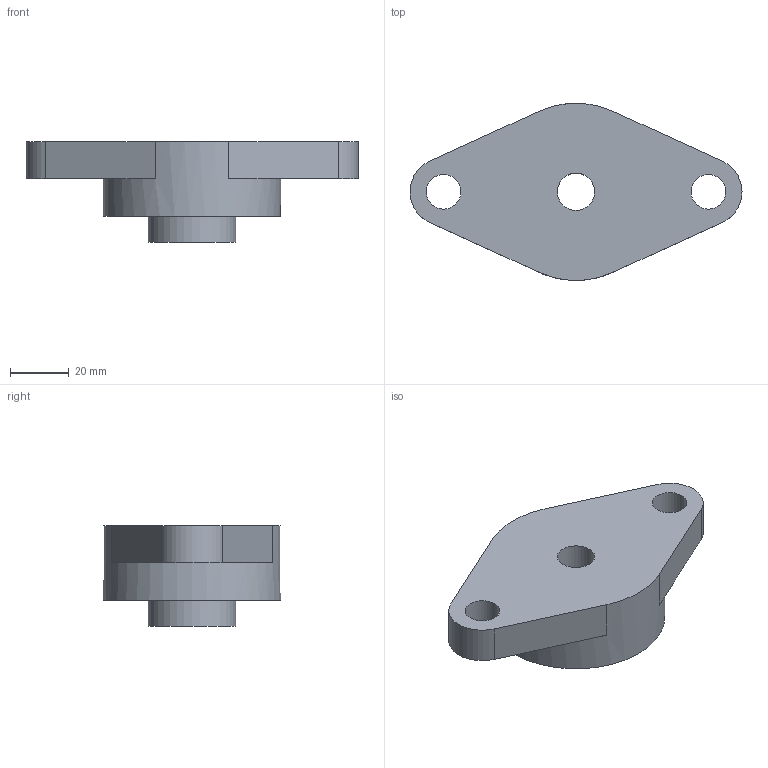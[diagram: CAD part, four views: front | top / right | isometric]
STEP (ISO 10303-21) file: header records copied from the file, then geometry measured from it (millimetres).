
FILE_DESCRIPTION(/* description */ (''),/* implementation_level */ '2;1');
FILE_NAME(/* name */ 'F:\Google Drive\Research\3d Printer Research\Feedstock Grinder\Ginder Parts\pillow block mockup.step',/* time_stamp */ '2016-08-18T22:22:53-07:00',/* author */ ('Brenton'),/* organization */ (''),/* preprocessor_version */ 'ST-DEVELOPER v15.6',/* originating_system */ 'Autodesk Inventor 2015',/* authorisation */ '');
FILE_SCHEMA (('AUTOMOTIVE_DESIGN { 1 0 10303 214 3 1 1 }'));
Length unit declared in the file: inch
Products named in the file (1): pillow block mockup
Bounding box: 112.95 x 60.24 x 34.29 mm (x, y, z)
Volume: 92369.2 mm3; surface area: 17233.6 mm2
Topology: 1 solids, 1 shells, 16 faces, 40 edges, 27 vertices
Faces by surface type: plane 9, cylinder 7
Full cylindrical faces by diameter (mm): 11.811 x2, 12.7 x1, 29.845 x1, 60.325 x1
Entity records: 494 total; most frequent: DIRECTION 84, CARTESIAN_POINT 75, ORIENTED_EDGE 66, AXIS2_PLACEMENT_3D 34, EDGE_CURVE 33, EDGE_LOOP 28, VERTEX_POINT 25, CIRCLE 17
